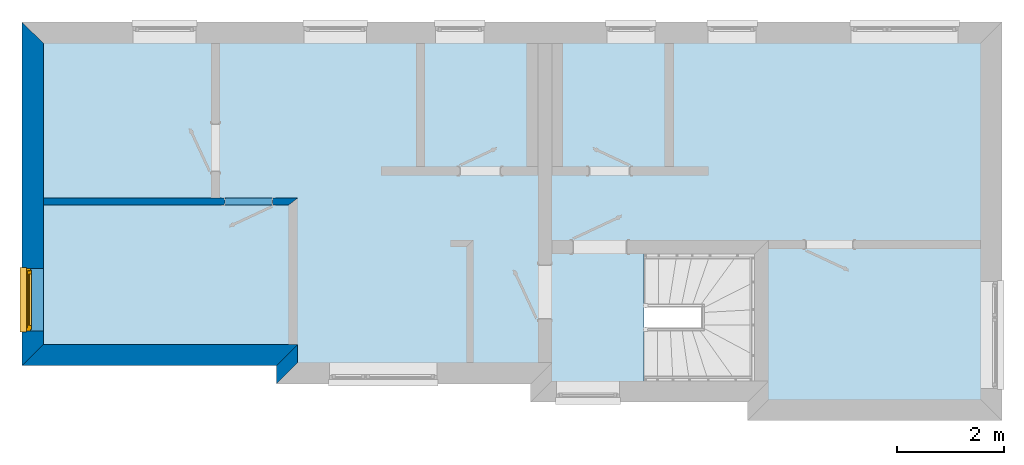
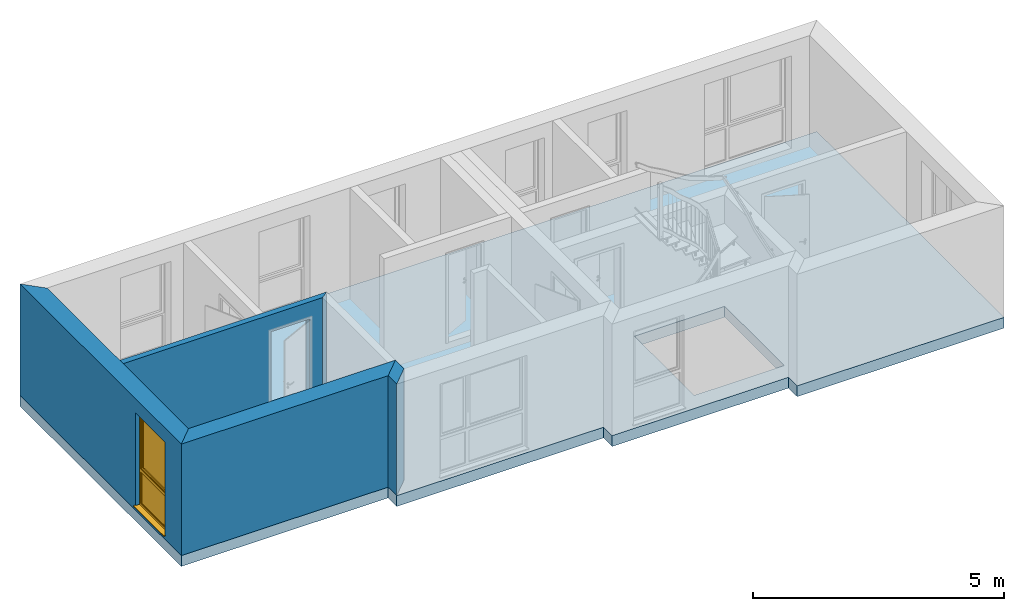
# One storey, part 1 of 16: 4 walls, 1 slab, 1 window, 3 openings.
"""IFC2X3 building model written with IfcOpenShell, lengths in millimetres."""

from ifc_helpers import new_model, si_unit, frame, origin_with_axes, place, context, project, spatial, faceted_brep, material, layer, layer_set, layer_usage, type_object, element, fill, save


model = new_model("IFC2X3")

# Units and contexts
model_context = context("Model", 3, world=origin_with_axes())
ifc_project = project(units=[si_unit("LENGTHUNIT", "METRE", prefix="MILLI")], contexts=[model_context])

# Site, building, storey
site_placement = place(None, origin_with_axes())
site = spatial("IfcSite", under=ifc_project, at=site_placement, Name="Site", CompositionType="ELEMENT")
building_placement = place(site_placement, origin_with_axes())
building = spatial("IfcBuilding", under=site, at=building_placement, Name="?", CompositionType="ELEMENT")
storey_placement = place(building_placement, frame((0.0, 0.0, 2969.0), z_axis=(0.0, 0.0, 1.0), x_axis=(1.0, 0.0, 0.0)))
storey = spatial("IfcBuildingStorey", under=building, at=storey_placement, Name="Obergeschoß 1", CompositionType="ELEMENT", Elevation=2969.0)

# Slab, opening
slab_placement = place(storey_placement, frame((0.0, 0.0, -262.0), z_axis=(0.0, 0.0, 1.0), x_axis=(1.0, 0.0, 0.0)))
slab = element("IfcSlab", 1, at=slab_placement, inside=storey, Name="DE", PredefinedType="FLOOR", context=model_context, shape_type="Brep", body=[
    faceted_brep([(0.0, -6415.0, 0.0), (0.0, 0.0, 0.0), (18300.0, 0.0, 0.0), (18300.0, -7440.0, 0.0), (13550.0, -7440.0, 0.0), (13550.0, -7098.0, 0.0), (9500.0, -7098.0, 0.0), (9500.0, -6756.0, 0.0), (4750.0, -6756.0, 0.0), (4750.0, -6415.0, 0.0), (0.0, -6415.0, 262.0), (4750.0, -6415.0, 262.0), (4750.0, -6756.0, 262.0), (9500.0, -6756.0, 262.0), (9500.0, -7098.0, 262.0), (13550.0, -7098.0, 262.0), (13550.0, -7440.0, 262.0), (18300.0, -7440.0, 262.0), (18300.0, 0.0, 262.0), (0.0, 0.0, 262.0), (9500.0, -6756.0, 0.0), (9500.0, -6756.0, 262.0), (4750.0, -6756.0, 262.0), (4750.0, -6756.0, 0.0), (9500.0, -7098.0, 0.0), (9500.0, -7098.0, 262.0), (9500.0, -6756.0, 262.0), (9500.0, -6756.0, 0.0), (18300.0, -7440.0, 0.0), (18300.0, -7440.0, 262.0), (13550.0, -7440.0, 262.0), (13550.0, -7440.0, 0.0), (18300.0, 0.0, 0.0), (18300.0, 0.0, 262.0), (18300.0, -7440.0, 262.0), (18300.0, -7440.0, 0.0), (4750.0, -6756.0, 0.0), (4750.0, -6756.0, 262.0), (4750.0, -6415.0, 262.0), (4750.0, -6415.0, 0.0), (13550.0, -7098.0, 0.0), (13550.0, -7098.0, 262.0), (9500.0, -7098.0, 262.0), (9500.0, -7098.0, 0.0), (4750.0, -6415.0, 0.0), (4750.0, -6415.0, 262.0), (0.0, -6415.0, 262.0), (0.0, -6415.0, 0.0), (0.0, 0.0, 0.0), (0.0, 0.0, 262.0), (18300.0, 0.0, 262.0), (18300.0, 0.0, 0.0), (0.0, -6415.0, 0.0), (0.0, -6415.0, 262.0), (0.0, 0.0, 262.0), (0.0, 0.0, 0.0), (13550.0, -7440.0, 0.0), (13550.0, -7440.0, 262.0), (13550.0, -7098.0, 262.0), (13550.0, -7098.0, 0.0)], [[[0, 1, 2, 3, 4, 5, 6, 7, 8, 9]], [[10, 11, 12, 13, 14, 15, 16, 17, 18, 19]], [[20, 21, 22, 23]], [[24, 25, 26, 27]], [[28, 29, 30, 31]], [[32, 33, 34, 35]], [[36, 37, 38, 39]], [[40, 41, 42, 43]], [[44, 45, 46, 47]], [[48, 49, 50, 51]], [[52, 53, 54, 55]], [[56, 57, 58, 59]]]),
])
opening_1_placement = place(slab_placement, frame((11611.0, -6703.0, 0.0), z_axis=(0.0, 0.0, 1.0), x_axis=(1.0, 0.0, 0.0)))
element("IfcOpeningElement", 2, at=opening_1_placement, cuts=slab, Name="DE|Treppe01", context=model_context, shape_type="Brep", body=[
    faceted_brep([(2070.0, 0.0, 0.0), (0.0, 0.0, 0.0), (0.0, 2370.0, 0.0), (2070.0, 2370.0, 0.0), (2070.0, 0.0, 0.0), (2070.0, 2370.0, 0.0), (2070.0, 2370.0, 262.0), (2070.0, 0.0, 262.0), (0.0, 0.0, 0.0), (2070.0, 0.0, 0.0), (2070.0, 0.0, 262.0), (0.0, 0.0, 262.0), (0.0, 2370.0, 0.0), (0.0, 0.0, 0.0), (0.0, 0.0, 262.0), (0.0, 2370.0, 262.0), (2070.0, 2370.0, 0.0), (0.0, 2370.0, 0.0), (0.0, 2370.0, 262.0), (2070.0, 2370.0, 262.0), (2070.0, 0.0, 262.0), (2070.0, 2370.0, 262.0), (0.0, 2370.0, 262.0), (0.0, 0.0, 262.0)], [[[0, 1, 2, 3]], [[4, 5, 6, 7]], [[8, 9, 10, 11]], [[12, 13, 14, 15]], [[16, 17, 18, 19]], [[20, 21, 22, 23]]]),
])

# Walls
ifc_material_1 = material(Name="Material_AW")
ifc_layer_1 = layer(ifc_material_1, 395.0, ventilated=False)
ifc_layer_set_1 = layer_set([ifc_layer_1], Name="MaterialLayerSet_AW")
ifc_layer_usage_1 = layer_usage(ifc_layer_set_1, "AXIS2", "NEGATIVE", 197.5)
wall_1_placement = place(storey_placement, frame((4947.5, -6558.5, 0.0), z_axis=(0.0, 0.0, 1.0), x_axis=(0.0, 1.0, 0.0)))
element("IfcWall", 3, at=wall_1_placement, inside=storey, material=ifc_layer_usage_1, Name="AW-18", context=model_context, shape_type="Brep", body=[
    faceted_brep([(538.50000682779, -197.5, 0.0), (538.50000682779, -197.5, 2707.0), (197.5, -197.5, 2707.0), (197.5, -197.5, 0.0), (143.50000682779, 197.5, 0.0), (143.50000682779, 197.5, 2707.0), (538.50000682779, -197.5, 2707.0), (538.50000682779, -197.5, 0.0), (-197.5, 197.5, 0.0), (-197.5, 197.5, 2707.0), (143.50000682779, 197.5, 2707.0), (143.50000682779, 197.5, 0.0), (197.5, -197.5, 0.0), (197.5, -197.5, 2707.0), (-197.5, 197.5, 2707.0), (-197.5, 197.5, 0.0), (197.5, -197.5, 0.0), (-197.5, 197.5, 0.0), (143.50000682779, 197.5, 0.0), (538.50000682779, -197.5, 0.0), (-197.5, 197.5, 2707.0), (197.5, -197.5, 2707.0), (538.50000682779, -197.5, 2707.0), (143.50000682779, 197.5, 2707.0)], [[[0, 1, 2, 3]], [[4, 5, 6, 7]], [[8, 9, 10, 11]], [[12, 13, 14, 15]], [[16, 17, 18, 19]], [[20, 21, 22, 23]]]),
])
wall_2_placement = place(storey_placement, frame((4947.5, -6217.5, 0.0), z_axis=(0.0, 0.0, 1.0), x_axis=(-1.0, 0.0, 0.0)))
element("IfcWall", 4, at=wall_2_placement, inside=storey, material=ifc_layer_usage_1, Name="AW-19", context=model_context, shape_type="Brep", body=[
    faceted_brep([(4552.50024192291, -197.5, 0.0), (4552.50024192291, -197.5, 2707.0), (-197.5, -197.5, 2707.0), (-197.5, -197.5, 0.0), (4947.50024192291, 197.5, 0.0), (4947.50024192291, 197.5, 2707.0), (4552.50024192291, -197.5, 2707.0), (4552.50024192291, -197.5, 0.0), (197.5, 197.5, 0.0), (197.5, 197.5, 2707.0), (4947.50024192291, 197.5, 2707.0), (4947.50024192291, 197.5, 0.0), (-197.5, -197.5, 0.0), (-197.5, -197.5, 2707.0), (197.5, 197.5, 2707.0), (197.5, 197.5, 0.0), (-197.5, -197.5, 0.0), (197.5, 197.5, 0.0), (4947.50024192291, 197.5, 0.0), (4552.50024192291, -197.5, 0.0), (197.5, 197.5, 2707.0), (-197.5, -197.5, 2707.0), (4552.50024192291, -197.5, 2707.0), (4947.50024192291, 197.5, 2707.0)], [[[0, 1, 2, 3]], [[4, 5, 6, 7]], [[8, 9, 10, 11]], [[12, 13, 14, 15]], [[16, 17, 18, 19]], [[20, 21, 22, 23]]]),
])

# Wall, opening, window
wall_3_placement = place(storey_placement, frame((197.5, -6217.5, 0.0), z_axis=(0.0, 0.0, 1.0), x_axis=(0.0, 1.0, 0.0)))
wall_3 = element("IfcWall", 5, at=wall_3_placement, inside=storey, material=ifc_layer_usage_1, Name="AW-20", context=model_context, shape_type="Brep", body=[
    faceted_brep([(5822.50010878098, -197.5, 0.0), (5822.50010878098, -197.5, 2707.0), (197.5, -197.5, 2707.0), (197.5, -197.5, 0.0), (6217.49987570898, 197.5, 0.0), (6217.49987570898, 197.5, 2707.0), (5822.50010878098, -197.5, 2707.0), (5822.50010878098, -197.5, 0.0), (-197.5, 197.5, 0.0), (-197.5, 197.5, 2707.0), (6217.49987570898, 197.5, 2707.0), (6217.49987570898, 197.5, 0.0), (197.5, -197.5, 0.0), (197.5, -197.5, 2707.0), (-197.5, 197.5, 2707.0), (-197.5, 197.5, 0.0), (197.5, -197.5, 0.0), (-197.5, 197.5, 0.0), (6217.49987570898, 197.5, 0.0), (5822.50010878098, -197.5, 0.0), (-197.5, 197.5, 2707.0), (197.5, -197.5, 2707.0), (5822.50010878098, -197.5, 2707.0), (6217.49987570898, 197.5, 2707.0)], [[[0, 1, 2, 3]], [[4, 5, 6, 7]], [[8, 9, 10, 11]], [[12, 13, 14, 15]], [[16, 17, 18, 19]], [[20, 21, 22, 23]]]),
])
opening_2_placement = place(wall_3_placement, frame((447.5, 0.0, 116.0), z_axis=(0.0, 0.0, 1.0), x_axis=(1.0, 0.0, 0.0)))
opening_2 = element("IfcOpeningElement", 6, at=opening_2_placement, cuts=wall_3, Name="AW-20|FE19", context=model_context, shape_type="Brep", body=[
    faceted_brep([(0.0, 207.5, 0.0), (0.0, 207.5, 2244.0), (1170.0, 207.5, 2244.0), (1170.0, 207.5, 0.0), (0.0, -207.5, 0.0), (0.0, -207.5, 2244.0), (0.0, 207.5, 2244.0), (0.0, 207.5, 0.0), (1170.0, -207.5, 0.0), (0.0, -207.5, 0.0), (0.0, 207.5, 0.0), (1170.0, 207.5, 0.0), (1170.0, -207.5, 2244.0), (1170.0, -207.5, 0.0), (1170.0, 207.5, 0.0), (1170.0, 207.5, 2244.0), (0.0, -207.5, 2244.0), (1170.0, -207.5, 2244.0), (1170.0, 207.5, 2244.0), (0.0, 207.5, 2244.0), (0.0, -207.5, 0.0), (1170.0, -207.5, 0.0), (1170.0, -207.5, 2244.0), (0.0, -207.5, 2244.0)], [[[0, 1, 2, 3]], [[4, 5, 6, 7]], [[8, 9, 10, 11]], [[12, 13, 14, 15]], [[16, 17, 18, 19]], [[20, 21, 22, 23]]]),
])
window_style = type_object("IfcWindowStyle", Name="FE19", ConstructionType="NOTDEFINED", OperationType="DOUBLE_PANEL_HORIZONTAL", ParameterTakesPrecedence=True, Sizeable=False)
window_placement = place(opening_2_placement, frame((1170.0, 77.5, 0.0), z_axis=(0.0, 0.0, 1.0), x_axis=(-1.0, 0.0, 0.0)))
window = element("IfcWindow", 7, at=window_placement, inside=storey, type_object=window_style, Name="FE19", OverallHeight=2244.0, OverallWidth=1170.0, context=model_context, shape_type="Brep", body=[
    faceted_brep([(0.0, -36.0, 0.0), (1170.0, -36.0, 0.0), (1155.0, -36.0, 15.0), (15.0, -36.0, 15.0), (15.0, 36.0, 15.0), (1155.0, 36.0, 15.0), (1170.0, 36.0, 0.0), (0.0, 36.0, 0.0), (0.0, 36.0, 0.0), (1170.0, 36.0, 0.0), (1170.0, -36.0, 0.0), (0.0, -36.0, 0.0), (1170.0, -36.0, 0.0), (1170.0, -36.0, 2244.0), (1155.0, -36.0, 2229.0), (1155.0, -36.0, 15.0), (1155.0, 36.0, 15.00048828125), (1155.0, 36.0, 2229.00048828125), (1170.0, 36.0, 2244.00048828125), (1170.0, 36.0, 0.00048828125), (1170.0, 36.0, 0.0), (1170.0, 36.0, 2244.0), (1170.0, -36.0, 2244.0), (1170.0, -36.0, 0.0), (1170.0, -36.0, 2244.0), (0.0, -36.0, 2244.0), (15.0, -36.0, 2229.0), (1155.0, -36.0, 2229.0), (1155.0, 36.0, 2229.0), (15.0, 36.0, 2229.0), (0.0, 36.0, 2244.0), (1170.0, 36.0, 2244.0), (1170.0, 36.0, 2244.0), (0.0, 36.0, 2244.0), (0.0, -36.0, 2244.0), (1170.0, -36.0, 2244.0), (0.0, -36.0, 2244.0), (0.0, -36.0, 0.0), (15.0, -36.0, 15.0), (15.0, -36.0, 2229.0), (15.0, 36.0, 2229.0), (15.0, 36.0, 15.0), (0.0, 36.0, 0.0), (0.0, 36.0, 2244.0), (0.0, 36.0, 2244.0), (0.0, 36.0, 0.0), (0.0, -36.0, 0.0), (0.0, -36.0, 2244.0), (1155.0, 36.0, 15.0), (15.0, 36.0, 15.0), (53.0, 36.0, 53.0), (1117.0, 36.0, 53.0), (1117.00048828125, 36.0, 53.0), (53.00048828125, 36.0, 53.0), (60.00048828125, 24.9990234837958, 60.000976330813), (1110.00048828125, 24.9990234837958, 60.000976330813), (1110.0, 25.0, 60.0), (60.0, 25.0, 60.0), (60.0, 12.0, 60.0), (1110.0, 12.0, 60.0), (1110.0, -12.0, 60.0), (60.0, -12.0, 60.0), (60.0, -25.0, 60.0), (1110.0, -25.0, 60.0), (1110.0, 12.0, 60.0), (60.0, 12.0, 60.0), (43.0, 12.0, 43.0), (1127.0, 12.0, 43.0), (1127.0, 12.0, 43.0), (43.0, 12.0, 43.0), (43.0, -12.0, 43.0), (1127.0, -12.0, 43.0), (1127.0, -12.0, 43.0), (43.0, -12.0, 43.0), (60.0, -12.0, 60.0), (1110.0, -12.0, 60.0), (1110.0, -24.9999999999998, 60.0), (60.0, -24.9999999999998, 60.0), (53.0, -36.0009762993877, 52.9992673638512), (1117.0, -36.0009762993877, 52.9992673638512), (1117.00048828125, -36.0, 53.0), (53.00048828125, -36.0, 53.0), (15.00048828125, -36.0, 15.0), (1155.00048828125, -36.0, 15.0), (1155.0, 36.0, 855.0), (1155.0, 36.0, 15.0), (1117.0, 36.0, 53.0), (1117.0, 36.0, 817.0), (1117.0, 36.0, 817.0), (1117.0, 36.0, 52.9999999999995), (1109.99902366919, 24.9990234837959, 59.9999999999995), (1109.99902366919, 24.9990234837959, 810.0), (1110.0, 25.0, 810.0), (1110.0, 25.0, 60.0), (1110.0, 12.0, 60.0), (1110.0, 12.0, 810.0), (1110.0, -12.0, 810.0), (1110.0, -12.0, 60.0), (1110.0, -25.0, 60.0), (1110.0, -25.0, 810.0), (1110.0, 12.0, 810.0), (1110.0, 12.0, 60.0), (1127.0, 12.0, 43.0), (1127.0, 12.0, 827.0), (1127.0, 12.0, 827.0), (1127.0, 12.0, 43.0), (1127.0, -12.0, 43.0), (1127.0, -12.0, 827.0), (1127.0, -12.0, 827.0), (1127.0, -12.0, 43.0), (1110.0, -12.0, 60.0), (1110.0, -12.0, 810.0), (1110.0, -25.0, 809.999999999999), (1110.0, -25.0, 59.9999999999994), (1117.00097633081, -36.0009765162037, 52.9999999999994), (1117.00097633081, -36.0009765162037, 816.999999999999), (1117.0, -36.0, 817.0), (1117.0, -36.0, 53.0), (1155.0, -36.0, 15.0), (1155.0, -36.0, 855.0), (15.0, 36.0, 855.0), (43.0, 36.0, 883.0), (1127.0, 36.0, 883.0), (1155.0, 36.0, 855.0), (1117.0, 36.0, 817.0), (53.0, 36.0, 817.0), (53.0, 36.0, 817.0), (1117.0, 36.0, 817.0), (1110.0, 24.999023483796, 809.999023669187), (60.0, 24.999023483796, 809.999023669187), (60.0, 25.0, 810.0), (1110.0, 25.0, 810.0), (1110.0, 12.0, 810.0), (60.0, 12.0, 810.0), (60.0, -12.0, 810.0), (1110.0, -12.0, 810.0), (1110.0, -25.0, 810.0), (60.0, -25.0, 810.0), (60.0, 12.0, 810.0), (1110.0, 12.0, 810.0), (1127.0, 12.0, 827.0), (43.0, 12.0, 827.0), (43.0, 12.0, 827.0), (1127.0, 12.0, 827.0), (1127.0, -12.0, 827.0), (43.0, -12.0, 827.0), (43.0, -12.0, 827.0), (1127.0, -12.0, 827.0), (1110.0, -12.0, 810.0), (60.0, -12.0, 810.0), (60.0, -25.0, 810.0), (1110.0, -25.0, 810.0), (1117.0, -36.000976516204, 817.000976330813), (53.0, -36.000976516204, 817.000976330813), (53.0, -36.0, 817.0), (1117.0, -36.0, 817.0), (1155.0, -36.0, 855.0), (1117.0, -36.0, 893.0), (53.0, -36.0, 893.0), (15.0, -36.0, 855.0), (1126.99951171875, 36.0, 883.0), (42.99951171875, 36.0, 883.0), (42.99951171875, -21.0, 883.0), (1126.99951171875, -21.0, 883.0), (1126.99951171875, -21.0, 883.0), (42.99951171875, -21.0, 883.0), (59.99951171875, -21.0, 900.0), (1109.99951171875, -21.0, 900.0), (1110.0, -21.0, 900.0), (60.0, -21.0, 900.0), (60.0, -25.0, 900.0), (1110.0, -25.0, 900.0), (1110.0, -25.0, 900.0), (60.0, -25.0, 900.0), (53.0, -36.0009765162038, 892.999023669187), (1117.0, -36.0009765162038, 892.999023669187), (15.0, 36.0, 15.0), (15.0, 36.0, 855.0), (53.0, 36.0, 817.0), (53.0, 36.0, 53.0), (53.0, 36.0, 53.0), (53.0, 36.0, 817.0), (60.0009763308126, 24.9990234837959, 810.0), (60.0009763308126, 24.9990234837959, 60.0), (60.0, 25.0, 60.0), (60.0, 25.0, 810.0), (60.0, 12.0, 810.0), (60.0, 12.0, 60.0), (60.0, -12.0, 60.0), (60.0, -12.0, 810.0), (60.0, -25.0, 810.0), (60.0, -25.0, 60.0), (60.0, 12.0, 60.0), (60.0, 12.0, 810.0), (43.0, 12.0, 827.0), (43.0, 12.0, 43.0), (43.0, 12.0, 43.0), (43.0, 12.0, 827.0), (43.0, -12.0, 827.0), (43.0, -12.0, 43.0), (43.0, -12.0, 43.0), (43.0, -12.0, 827.0), (60.0, -12.0, 810.0), (60.0, -12.0, 60.0), (60.0, -25.0, 60.0), (60.0, -25.0, 810.0), (52.9990236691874, -36.0009765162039, 817.0), (52.9990236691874, -36.0009765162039, 53.0), (53.0, -36.0, 53.0), (53.0, -36.0, 817.0), (15.0, -36.0, 855.0), (15.0, -36.0, 15.0), (1155.0, 36.0, 2229.0), (1155.0, 36.0, 855.0), (1127.0, 36.0, 883.0), (1127.0, 36.0, 2201.0), (1127.0, 36.0, 2201.0), (1127.0, 36.0, 883.0), (1127.0, -21.0, 883.0), (1127.0, -21.0, 2201.0), (1127.0, -21.0, 2201.0), (1127.0, -21.0, 883.0), (1110.0, -21.0, 900.0), (1110.0, -21.0, 2184.0), (1110.0, -21.0, 2184.0), (1110.0, -21.0, 900.0), (1110.0, -25.0, 900.0), (1110.0, -25.0, 2184.0), (1110.0, -25.0, 2184.0), (1110.0, -25.0, 900.0), (1117.00097633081, -36.0009765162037, 893.0), (1117.00097633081, -36.0009765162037, 2191.0), (1117.0, -36.0, 2191.0), (1117.0, -36.0, 893.0), (1155.0, -36.0, 855.0), (1155.0, -36.0, 2229.0), (15.0, 36.0, 2229.0), (1155.0, 36.0, 2229.0), (1127.0, 36.0, 2201.0), (43.0, 36.0, 2201.0), (43.00048828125, 36.0, 2201.0), (1127.00048828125, 36.0, 2201.0), (1127.00048828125, -21.0, 2201.0), (43.00048828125, -21.0, 2201.0), (43.00048828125, -21.0, 2201.0), (1127.00048828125, -21.0, 2201.0), (1110.00048828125, -21.0, 2184.0), (60.00048828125, -21.0, 2184.0), (60.0, -21.0, 2184.0), (1110.0, -21.0, 2184.0), (1110.0, -25.0, 2184.0), (60.0, -25.0, 2184.0), (60.0, -25.0, 2184.0), (1110.0, -25.0, 2184.0), (1117.0, -36.0009765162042, 2191.00097633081), (53.0, -36.0009765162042, 2191.00097633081), (53.0, -36.0, 2191.0), (1117.0, -36.0, 2191.0), (1155.0, -36.0, 2229.0), (15.0, -36.0, 2229.0), (15.0, 36.0, 855.0), (15.0, 36.0, 2229.0), (43.0, 36.0, 2201.0), (43.0, 36.0, 883.0), (43.0, 36.0, 883.0), (43.0, 36.0, 2201.0), (43.0, -21.0, 2201.0), (43.0, -21.0, 883.0), (43.0, -21.0, 883.0), (43.0, -21.0, 2201.0), (60.0, -21.0, 2184.0), (60.0, -21.0, 900.0), (60.0, -21.0, 900.0), (60.0, -21.0, 2184.0), (60.0, -25.0, 2184.0), (60.0, -25.0, 900.0), (60.0, -25.0, 900.0), (60.0, -25.0, 2184.0), (52.9990236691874, -36.0009765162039, 2191.0), (52.9990236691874, -36.0009765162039, 893.0), (53.0, -36.0, 893.0), (53.0, -36.0, 2191.0), (15.0, -36.0, 2229.0), (15.0, -36.0, 855.0), (1136.99951171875, 52.0, 873.0), (32.99951171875, 52.0, 873.0), (95.99951171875, 52.0, 936.0), (1073.99951171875, 52.0, 936.0), (1073.99951171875, 52.0, 936.0), (95.99951171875, 52.0, 936.0), (109.99951171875, 19.9990227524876, 950.000732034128), (1059.99951171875, 19.9990227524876, 950.000732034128), (1059.99951171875, 20.0, 950.0), (109.99951171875, 20.0, 950.0), (102.99951171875, 20.0, 943.0), (1066.99951171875, 20.0, 943.0), (1066.99951171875, 20.0, 943.0), (102.99951171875, 20.0, 943.0), (102.99951171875, -4.0, 943.0), (1066.99951171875, -4.0, 943.0), (1066.99951171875, -4.0, 943.0), (102.99951171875, -4.0, 943.0), (109.99951171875, -4.0, 950.0), (1059.99951171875, -4.0, 950.0), (1059.99951171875, -4.0, 950.0), (109.99951171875, -4.0, 950.0), (101.99951171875, -21.0019530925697, 941.999267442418), (1067.99951171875, -21.0019530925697, 941.999267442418), (1067.99951171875, -21.0, 942.0), (101.99951171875, -21.0, 942.0), (50.99951171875, -21.0, 891.0), (1118.99951171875, -21.0, 891.0), (1118.99951171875, -21.0, 891.0), (50.99951171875, -21.0, 891.0), (50.99951171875, 36.0, 891.0), (1118.99951171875, 36.0, 891.0), (1118.99951171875, 36.0, 891.0), (50.99951171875, 36.0, 891.0), (32.99951171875, 36.0, 873.0), (1136.99951171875, 36.0, 873.0), (1136.99951171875, 36.0, 873.0), (32.99951171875, 36.0, 873.0), (32.99951171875, 52.0, 873.0), (1136.99951171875, 52.0, 873.0), (1137.0, 52.0, 2211.0), (1137.0, 52.0, 873.0), (1074.0, 52.0, 936.0), (1074.0, 52.0, 2148.0), (1074.0, 51.9999999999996, 2148.0), (1074.0, 51.9999999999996, 936.0), (1059.99951122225, 19.999022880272, 950.0), (1059.99951122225, 19.999022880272, 2134.0), (1060.0, 20.0, 2134.0), (1060.0, 20.0, 950.0), (1067.0, 20.0, 943.0), (1067.0, 20.0, 2141.0), (1067.0, 20.0, 2141.0), (1067.0, 20.0, 943.0), (1067.0, -4.0, 943.0), (1067.0, -4.0, 2141.0), (1067.0, -4.0, 2141.0), (1067.0, -4.0, 943.0), (1060.0, -4.0, 950.0), (1060.0, -4.0, 2134.0), (1060.0, -4.0, 2134.0), (1060.0, -4.0, 949.999999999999), (1068.00048837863, -21.0019531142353, 941.999999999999), (1068.00048837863, -21.0019531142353, 2142.0), (1068.0, -21.0, 2142.0), (1068.0, -21.0, 942.0), (1119.0, -21.0, 891.0), (1119.0, -21.0, 2193.0), (1119.0, -21.0, 2193.0), (1119.0, -21.0, 891.0), (1119.0, 36.0, 891.0), (1119.0, 36.0, 2193.0), (1119.0, 36.0, 2193.0), (1119.0, 36.0, 891.0), (1137.0, 36.0, 873.0), (1137.0, 36.0, 2211.0), (1137.0, 36.0, 2211.0), (1137.0, 36.0, 873.0), (1137.0, 52.0, 873.0), (1137.0, 52.0, 2211.0), (33.00048828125, 52.0, 2211.0), (1137.00048828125, 52.0, 2211.0), (1074.00048828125, 52.0, 2148.0), (96.00048828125, 52.0, 2148.0), (96.00048828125, 51.9999999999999, 2148.0), (1074.00048828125, 51.9999999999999, 2148.0), (1060.00048828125, 19.9990228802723, 2133.99951122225), (110.00048828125, 19.9990228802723, 2133.99951122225), (110.00048828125, 20.0, 2134.0), (1060.00048828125, 20.0, 2134.0), (1067.00048828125, 20.0, 2141.0), (103.00048828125, 20.0, 2141.0), (103.00048828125, 20.0, 2141.0), (1067.00048828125, 20.0, 2141.0), (1067.00048828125, -4.0, 2141.0), (103.00048828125, -4.0, 2141.0), (103.00048828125, -4.0, 2141.0), (1067.00048828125, -4.0, 2141.0), (1060.00048828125, -4.0, 2134.0), (110.00048828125, -4.0, 2134.0), (110.00048828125, -4.0, 2134.0), (1060.00048828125, -4.0, 2134.0), (1068.00048828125, -21.0019531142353, 2142.00048837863), (102.00048828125, -21.0019531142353, 2142.00048837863), (102.0, -21.0, 2142.0), (1068.0, -21.0, 2142.0), (1119.0, -21.0, 2193.0), (51.0, -21.0, 2193.0), (51.00048828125, -21.0, 2193.0), (1119.00048828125, -21.0, 2193.0), (1119.00048828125, 36.0, 2193.0), (51.00048828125, 36.0, 2193.0), (51.00048828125, 36.0, 2193.0), (1119.00048828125, 36.0, 2193.0), (1137.00048828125, 36.0, 2211.0), (33.00048828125, 36.0, 2211.0), (33.00048828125, 36.0, 2211.0), (1137.00048828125, 36.0, 2211.0), (1137.00048828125, 52.0, 2211.0), (33.00048828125, 52.0, 2211.0), (33.0, 52.0, 873.0), (33.0, 52.0, 2211.0), (96.0, 52.0, 2148.0), (96.0, 52.0, 936.0), (96.0, 52.0, 936.0), (96.0, 52.0, 2148.0), (110.000488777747, 19.9990228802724, 2134.0), (110.000488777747, 19.9990228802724, 950.0), (110.0, 20.0, 950.0), (110.0, 20.0, 2134.0), (103.0, 20.0, 2141.0), (103.0, 20.0, 943.0), (103.0, 20.0, 943.0), (103.0, 20.0, 2141.0), (103.0, -4.0, 2141.0), (103.0, -4.0, 943.0), (103.0, -4.0, 943.0), (103.0, -4.0, 2141.0), (110.0, -4.0, 2134.0), (110.0, -4.0, 950.0), (110.0, -4.0, 950.0), (110.0, -4.0, 2134.0), (101.999511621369, -21.0019531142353, 2142.0), (101.999511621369, -21.0019531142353, 942.0), (102.0, -21.0, 942.0), (102.0, -21.0, 2142.0), (51.0, -21.0, 2193.0), (51.0, -21.0, 891.0), (51.0, -21.0, 891.0), (51.0, -21.0, 2193.0), (51.0, 36.0, 2193.0), (51.0, 36.0, 891.0), (51.0, 36.0, 891.0), (51.0, 36.0, 2193.0), (33.0, 36.0, 2211.0), (33.0, 36.0, 873.0), (33.0, 36.0, 873.0), (33.0, 36.0, 2211.0), (33.0, 52.0, 2211.0), (33.0, 52.0, 873.0), (60.0, 12.0, 60.0), (60.0, 12.0, 810.0), (1110.0, 12.0, 810.0), (1110.0, 12.0, 60.0), (60.0, -12.0, 60.0), (1110.0, -12.0, 60.0), (1110.0, -12.0, 810.0), (60.0, -12.0, 810.0), (110.0, 20.0, 950.0), (110.0, 20.0, 2134.0), (1060.0, 20.0, 2134.0), (1060.0, 20.0, 950.0), (110.0, -4.0, 950.0), (1060.0, -4.0, 950.0), (1060.0, -4.0, 2134.0), (110.0, -4.0, 2134.0), (-20.0, -36.0, 0.5), (-20.0, -160.0, 0.5), (1190.0, -160.0, 0.5), (1190.0, -36.0, 0.5), (-20.0, -36.0, -19.5), (-20.0, -36.0, 0.5), (1190.0, -36.0, 0.5), (1190.0, -36.0, -19.5), (-20.0, -160.0, -19.5), (-20.0, -36.0, -19.5), (1190.0, -36.0, -19.5), (1190.0, -160.0, -19.5), (-20.0, -160.0, 0.5), (-20.0, -160.0, -19.5), (1190.0, -160.0, -19.5), (1190.0, -160.0, 0.5), (-20.0, -160.0, -19.5), (-20.0, -160.0, 0.5), (-20.0, -36.0, 0.5), (-20.0, -36.0, -19.5), (1190.0, -160.0, 0.5), (1190.0, -160.0, -19.5), (1190.0, -36.0, -19.5), (1190.0, -36.0, 0.5)], [[[0, 1, 2, 3]], [[4, 5, 6, 7]], [[8, 9, 10, 11]], [[12, 13, 14, 15]], [[16, 17, 18, 19]], [[20, 21, 22, 23]], [[24, 25, 26, 27]], [[28, 29, 30, 31]], [[32, 33, 34, 35]], [[36, 37, 38, 39]], [[40, 41, 42, 43]], [[44, 45, 46, 47]], [[48, 49, 50, 51]], [[52, 53, 54, 55]], [[56, 57, 58, 59]], [[60, 61, 62, 63]], [[64, 65, 66, 67]], [[68, 69, 70, 71]], [[72, 73, 74, 75]], [[76, 77, 78, 79]], [[80, 81, 82, 83]], [[84, 85, 86, 87]], [[88, 89, 90, 91]], [[92, 93, 94, 95]], [[96, 97, 98, 99]], [[100, 101, 102, 103]], [[104, 105, 106, 107]], [[108, 109, 110, 111]], [[112, 113, 114, 115]], [[116, 117, 118, 119]], [[120, 121, 122, 123, 124, 125]], [[126, 127, 128, 129]], [[130, 131, 132, 133]], [[134, 135, 136, 137]], [[138, 139, 140, 141]], [[142, 143, 144, 145]], [[146, 147, 148, 149]], [[150, 151, 152, 153]], [[154, 155, 156, 157, 158, 159]], [[160, 161, 162, 163]], [[164, 165, 166, 167]], [[168, 169, 170, 171]], [[172, 173, 174, 175]], [[176, 177, 178, 179]], [[180, 181, 182, 183]], [[184, 185, 186, 187]], [[188, 189, 190, 191]], [[192, 193, 194, 195]], [[196, 197, 198, 199]], [[200, 201, 202, 203]], [[204, 205, 206, 207]], [[208, 209, 210, 211]], [[212, 213, 214, 215]], [[216, 217, 218, 219]], [[220, 221, 222, 223]], [[224, 225, 226, 227]], [[228, 229, 230, 231]], [[232, 233, 234, 235]], [[236, 237, 238, 239]], [[240, 241, 242, 243]], [[244, 245, 246, 247]], [[248, 249, 250, 251]], [[252, 253, 254, 255]], [[256, 257, 258, 259]], [[260, 261, 262, 263]], [[264, 265, 266, 267]], [[268, 269, 270, 271]], [[272, 273, 274, 275]], [[276, 277, 278, 279]], [[280, 281, 282, 283]], [[284, 285, 286, 287]], [[288, 289, 290, 291]], [[292, 293, 294, 295]], [[296, 297, 298, 299]], [[300, 301, 302, 303]], [[304, 305, 306, 307]], [[308, 309, 310, 311]], [[312, 313, 314, 315]], [[316, 317, 318, 319]], [[320, 321, 322, 323]], [[324, 325, 326, 327]], [[328, 329, 330, 331]], [[332, 333, 334, 335]], [[336, 337, 338, 339]], [[340, 341, 342, 343]], [[344, 345, 346, 347]], [[348, 349, 350, 351]], [[352, 353, 354, 355]], [[356, 357, 358, 359]], [[360, 361, 362, 363]], [[364, 365, 366, 367]], [[368, 369, 370, 371]], [[372, 373, 374, 375]], [[376, 377, 378, 379]], [[380, 381, 382, 383]], [[384, 385, 386, 387]], [[388, 389, 390, 391]], [[392, 393, 394, 395]], [[396, 397, 398, 399]], [[400, 401, 402, 403]], [[404, 405, 406, 407]], [[408, 409, 410, 411]], [[412, 413, 414, 415]], [[416, 417, 418, 419]], [[420, 421, 422, 423]], [[424, 425, 426, 427]], [[428, 429, 430, 431]], [[432, 433, 434, 435]], [[436, 437, 438, 439]], [[440, 441, 442, 443]], [[444, 445, 446, 447]], [[448, 449, 450, 451]], [[452, 453, 454, 455]], [[456, 457, 458, 459]], [[460, 461, 462, 463]], [[464, 465, 466, 467]], [[468, 469, 470, 471]], [[472, 473, 474, 475]], [[476, 477, 478, 479]], [[480, 481, 482, 483]]]),
])
fill(opening_2, window)

# Wall, opening
ifc_material_2 = material(Name="Material_IW")
ifc_layer_2 = layer(ifc_material_2, 132.0, ventilated=False)
ifc_layer_set_2 = layer_set([ifc_layer_2], Name="MaterialLayerSet_IW")
ifc_layer_usage_2 = layer_usage(ifc_layer_set_2, "AXIS2", "NEGATIVE", 66.0)
wall_4_placement = place(storey_placement, frame((395.0, -3354.0, 0.0), z_axis=(0.0, 0.0, 1.0), x_axis=(1.0, 0.0, 0.0)))
wall_4 = element("IfcWall", 8, at=wall_4_placement, inside=storey, material=ifc_layer_usage_2, Name="IW-24", context=model_context, shape_type="Brep", body=[
    faceted_brep([(4577.9998000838, -66.0, 0.0), (4577.9998000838, -66.0, 2707.0), (0.0, -66.0, 2707.0), (0.0, -66.0, 0.0), (4749.99991169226, 66.0000000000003, 0.0), (4749.99991169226, 66.0000000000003, 2707.0), (4577.9998000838, -66.0000000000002, 2707.0), (4577.9998000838, -66.0000000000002, 0.0), (0.0, 66.0, 0.0), (0.0, 66.0, 2707.0), (4749.99991169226, 66.0, 2707.0), (4749.99991169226, 66.0, 0.0), (0.0, -66.0, 0.0), (0.0, -66.0, 2707.0), (0.0, 66.0, 2707.0), (0.0, 66.0, 0.0), (0.0, -66.0, 0.0), (0.0, 66.0, 0.0), (4749.99991169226, 66.0, 0.0), (4577.9998000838, -66.0, 0.0), (0.0, -66.0, 2707.0), (4577.9998000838, -66.0, 2707.0), (4749.99991169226, 66.0, 2707.0), (0.0, 66.0, 2707.0)], [[[0, 1, 2, 3]], [[4, 5, 6, 7]], [[8, 9, 10, 11]], [[12, 13, 14, 15]], [[16, 17, 18, 19]], [[20, 21, 22, 23]]]),
])
opening_3_placement = place(wall_4_placement, frame((3392.0, 0.0, 160.0), z_axis=(0.0, 0.0, 1.0), x_axis=(1.0, 0.0, 0.0)))
element("IfcOpeningElement", 9, at=opening_3_placement, cuts=wall_4, Name="IW-24|IT09", context=model_context, shape_type="Brep", body=[
    faceted_brep([(0.0, 76.0, 0.0), (0.0, 76.0, 2135.0), (885.0, 76.0, 2135.0), (885.0, 76.0, 0.0), (0.0, -76.0, 0.0), (0.0, -76.0, 2135.0), (0.0, 76.0, 2135.0), (0.0, 76.0, 0.0), (885.0, -76.0, 0.0), (0.0, -76.0, 0.0), (0.0, 76.0, 0.0), (885.0, 76.0, 0.0), (885.0, -76.0, 2135.0), (885.0, -76.0, 0.0), (885.0, 76.0, 0.0), (885.0, 76.0, 2135.0), (0.0, -76.0, 2135.0), (885.0, -76.0, 2135.0), (885.0, 76.0, 2135.0), (0.0, 76.0, 2135.0), (0.0, -76.0, 0.0), (885.0, -76.0, 0.0), (885.0, -76.0, 2135.0), (0.0, -76.0, 2135.0)], [[[0, 1, 2, 3]], [[4, 5, 6, 7]], [[8, 9, 10, 11]], [[12, 13, 14, 15]], [[16, 17, 18, 19]], [[20, 21, 22, 23]]]),
])

save(model, "model.ifc")
